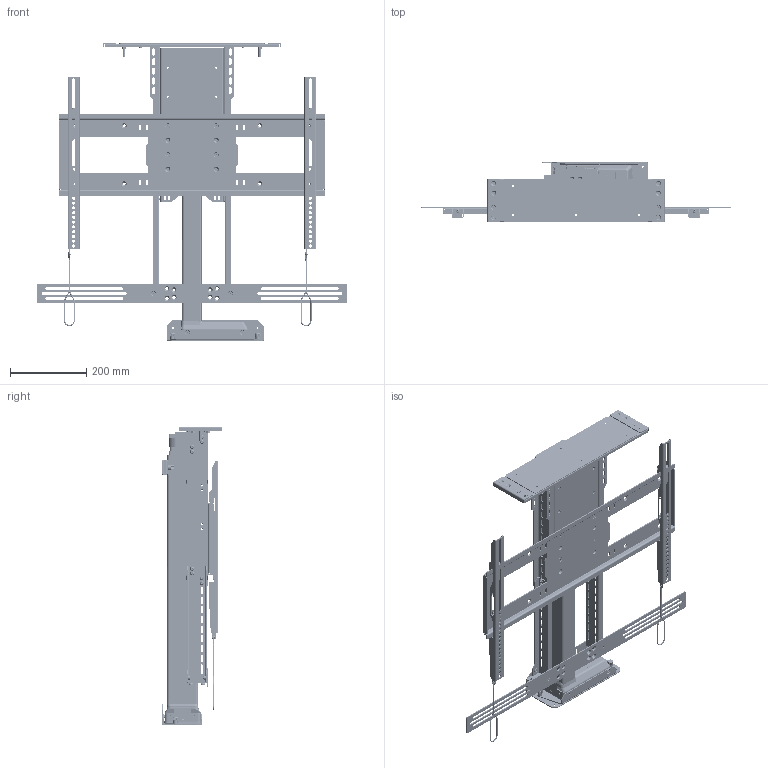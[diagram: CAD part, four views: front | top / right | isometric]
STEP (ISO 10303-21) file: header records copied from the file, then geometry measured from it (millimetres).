
FILE_DESCRIPTION(/* description */ ('STEP AP242','CAx-IF Rec.Pracs.---Representation and Presentation of Product Manufacturing Information (PMI)---4.0---2014-10-13','CAx-IF Rec.Pracs.---3D Tessellated Geometry---0.4---2014-09-14','2;1'),/* implementation_level */ '2;1');
FILE_NAME(/* name */ '63effbc3e841dc281484800c',/* time_stamp */ '2023-02-17T22:12:25+00:00',/* author */ (''),/* organization */ (''),/* preprocessor_version */ 'ST-DEVELOPER v18.102',/* originating_system */ ' ',/* authorisation */ ' ');
FILE_SCHEMA (('AP242_MANAGED_MODEL_BASED_3D_ENGINEERING_MIM_LF { 1 0 10303 442 1 1 4 }'));
Products named in the file (68): L-65/s; Hex socket countersunk head screw M6x1 x 12; Socket button head screw M6x1 x 12; WDS8151-215; Universal Swivel Master Assembly <1>; Socket button head screw M6x1 x 10; SW-NE-005 - SWIVEL TOP PLATE; NEX-SW-001 - DL16 SWIVEL BOTTOM SPACER; SW-NE-002 - SWIVEL BOTTOM PLATE; ULS-NX-011 - ULS ACCESSORY MOUNTING BRACKET SPACER <2>; ULS-NX-011 - UL ACCESSORY MOUNTING BRACKET SPACER; PRODUCT_NAME_1; ULS Accessories <1>; ULS-NX-010 - ULS ACCESSORY MOUNTING BRACKET W PEMS <2>; PEM CLS-M6-2  ; ULS-NX-010 - UL ACCESSORY MOUNTING BRACKET; L-85 SOUND BAR MOUNT; ULS-NX-010 - ULS ACCESSORY MOUNTING BRACKET W PEMS <1>; ULS-NX-108 - ULS SCREEN SUPPORT WELDMENT <1>; PEM CLS-M6-1  ; F-M6-3 M6 PEM NUT; ULS-NX-008 - UL SCREEN SUPPORT SHELL; ULS-NX-009 - ULS SCREEN SUPPORT TOP PLATE <1>; ULS-NX-009 - UL SCREEN SUPPORT TOP PLATE; Lid Plate Assembly W/ Lid Supports <1>; ULS-NX-012 - ULS LID SUPPORT W PEMS <1>; UL LID SUPPORT (ULS-NX-012); ULS-NX-012 - ULS LID SUPPORT W PEMS <2>; LID-FL-ULS - ULS Lid Plate Assembly <1>; ULS-NX-006 - Lid Adapter W/ Pin <1>; OLD_ULS-NX-006 - UL LID ADAPTER <1>; ULS-NX-006 - UL LID ADAPTER; FHS-273-24 PEM; FL Sub Asm <1>; 97069A106_Zinc-Plated Steel Spring Lock Washer; Plain washer large grade A M6; Hex socket countersunk head screw M6x1 x 8; ULS-NX-007 - UL LID PLATE EXTENDER; Hex nut grade C M6x1; NEX-LM-032 LID PIN GUIDE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
Assembly tree (204 placements, depth 6):
  L-65/s
    Hex socket countersunk head screw M6x1 x 12  x16
    Socket button head screw M6x1 x 12  x16
    WDS8151-215  x4
    Universal Swivel Master Assembly <1>
      Socket button head screw M6x1 x 10  x4
      SW-NE-005 - SWIVEL TOP PLATE
      NEX-SW-001 - DL16 SWIVEL BOTTOM SPACER
      SW-NE-002 - SWIVEL BOTTOM PLATE
    ULS-NX-011 - ULS ACCESSORY MOUNTING BRACKET SPACER <2>
      ULS-NX-011 - UL ACCESSORY MOUNTING BRACKET SPACER
      PRODUCT_NAME_1  x2
    ULS Accessories <1>
      Hex socket countersunk head screw M6x1 x 12  x2
      ULS-NX-010 - ULS ACCESSORY MOUNTING BRACKET W PEMS <2>
        PEM CLS-M6-2    x4
        ULS-NX-010 - UL ACCESSORY MOUNTING BRACKET
      L-85 SOUND BAR MOUNT
      ULS-NX-010 - ULS ACCESSORY MOUNTING BRACKET W PEMS <1>
        PEM CLS-M6-2    x4
        ULS-NX-010 - UL ACCESSORY MOUNTING BRACKET
    ULS-NX-108 - ULS SCREEN SUPPORT WELDMENT <1>
      PEM CLS-M6-1    x32
      F-M6-3 M6 PEM NUT
      ULS-NX-008 - UL SCREEN SUPPORT SHELL
      ULS-NX-009 - ULS SCREEN SUPPORT TOP PLATE <1>
        PEM CLS-M6-1    x4
        ULS-NX-009 - UL SCREEN SUPPORT TOP PLATE
    Lid Plate Assembly W/ Lid Supports <1>
      ULS-NX-012 - ULS LID SUPPORT W PEMS <1>
        PEM CLS-M6-2    x2
        UL LID SUPPORT (ULS-NX-012)
      ULS-NX-012 - ULS LID SUPPORT W PEMS <2>
        PEM CLS-M6-2    x2
        UL LID SUPPORT (ULS-NX-012)
      LID-FL-ULS - ULS Lid Plate Assembly <1>
        ULS-NX-006 - Lid Adapter W/ Pin <1>
          OLD_ULS-NX-006 - UL LID ADAPTER <1>
            ULS-NX-006 - UL LID ADAPTER
            FHS-273-24 PEM  x2
        FL Sub Asm <1>
          97069A106_Zinc-Plated Steel Spring Lock Washer  x4
          Plain washer large grade A M6  x4
          Hex socket countersunk head screw M6x1 x 8  x4
          ULS-NX-007 - UL LID PLATE EXTENDER  x2
          Hex nut grade C M6x1  x4
          NEX-LM-032 LID PIN GUIDE  x2
          ULS-NX-005 - UL LID PLATE W PEMS <1>
            PEM CLS-M6-2    x8
            ULS-NX-005 - UL LID PLATE
            PEM FHS-M6-15    x4
    SBP & VMB <1>
      PZ Pan head screw M5x0.80 x 25  x2
      ULS-NX-017 - UL SCREEN BACK PLATE
      Lanyard  x2
      ULS-NX-118 - UL VMB WELDMENT <2>
        Socket button head cap screw #6-32 x 0.188  x2
        VMB Washer  x4
        ULS-NX-019 - UL LEVEL ADJUSTMENT PLATE
        PEM BSO-632-10  ZI  x2
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Bounding box: 812.8 x 159.35 x 783.38 mm (x, y, z)
Volume: 9195507.8 mm3; surface area: 2086394.5 mm2
Topology: 182 solids, 182 shells, 12429 faces, 33136 edges, 21490 vertices
Faces by surface type: plane 8632, cylinder 2170, cone 800, bspline 535, torus 246, sphere 46
Full cylindrical faces by diameter (mm): 1.778 x2, 2.032 x14, 2.642 x4, 3.175 x10, 3.505 x4, 4.6 x2, 4.917 x61, 5 x24, 5.004 x4, 5.026 x4, 5.08 x4, 5.277 x8, 5.3 x6, 5.385 x12, 5.41 x8, 5.486 x4, 5.499 x2, 5.6 x4, 5.613 x6, 5.944 x4, 5.994 x3, 6 x76, 6.095 x2, 6.35 x22, 6.4 x4, 6.528 x5, 6.6 x10, 6.604 x4, 6.655 x4, 6.934 x2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
Entity records: 110460 total; most frequent: CARTESIAN_POINT 21122, DIRECTION 17647, ORIENTED_EDGE 16850, EDGE_CURVE 8425, AXIS2_PLACEMENT_3D 6146, VERTEX_POINT 5646, LINE 5355, VECTOR 5355
